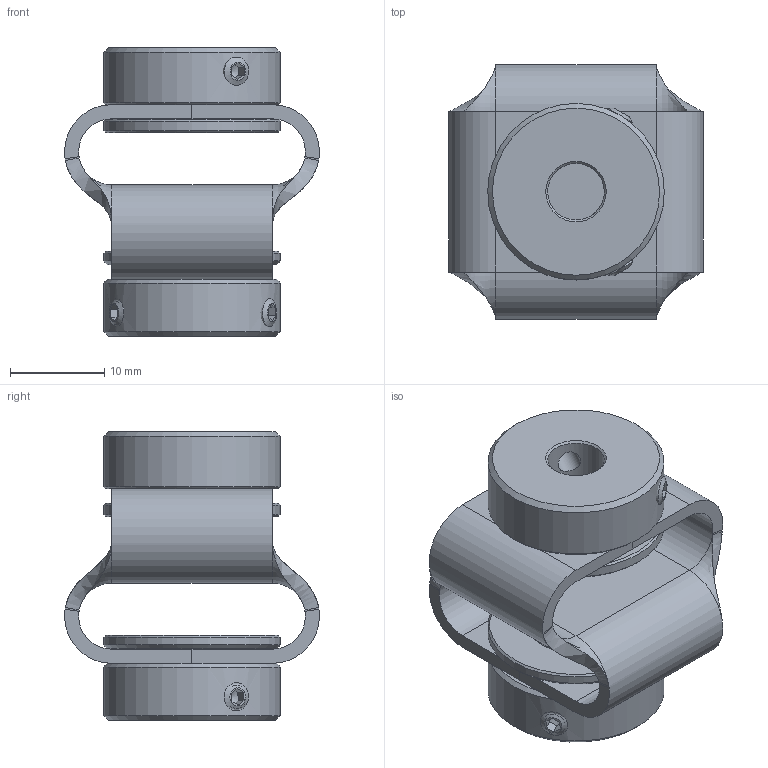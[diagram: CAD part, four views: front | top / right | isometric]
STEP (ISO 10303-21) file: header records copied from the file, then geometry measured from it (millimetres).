
FILE_DESCRIPTION(/* description */ ('Stern '),/* implementation_level */ '2;1');
FILE_NAME(/* name */ 'Z:\ABP-Antriebstechnik\Entwicklung-3D\Paguflex\DKPSF\DKPSF2928 06 10.stp',/* time_stamp */ '2024-03-11T12:57:38+01:00',/* author */ ('christian.fehrenbach'),/* organization */ (''),/* preprocessor_version */ 'ST-DEVELOPER v16.1',/* originating_system */ 'Autodesk Inventor 2016',/* authorisation */ '');
FILE_SCHEMA (('AUTOMOTIVE_DESIGN { 1 0 10303 214 3 1 1 }'));
Length unit declared in the file: millimetre
Products named in the file (5): Stern DKPSF2928 gebogen; Schraubnabe 1909 06; Schraubnabe 1909 10; ISO 4029 - M3 x 4 - ISO; DKPSF2928 06 10
Assembly tree (7 placements, depth 2):
  DKPSF2928 06 10
    Stern DKPSF2928 gebogen
    Schraubnabe 1909 06
    Schraubnabe 1909 10
    ISO 4029 - M3 x 4 - ISO  x4
Bounding box: 27 x 27 x 30.6 mm (x, y, z)
Volume: 5765.2 mm3; surface area: 6566.3 mm2
Topology: 7 solids, 11 shells, 162 faces, 348 edges, 198 vertices
Faces by surface type: plane 84, cylinder 30, cone 28, bspline 12, torus 8
Full cylindrical faces by diameter (mm): 2.459 x4, 3 x4, 6 x1, 10 x1, 12.5 x2, 14 x2, 18.7 x4
Entity records: 3475 total; most frequent: CARTESIAN_POINT 1156, DIRECTION 458, ORIENTED_EDGE 416, EDGE_CURVE 200, AXIS2_PLACEMENT_3D 190, EDGE_LOOP 156, VERTEX_POINT 132, FACE_OUTER_BOUND 108
